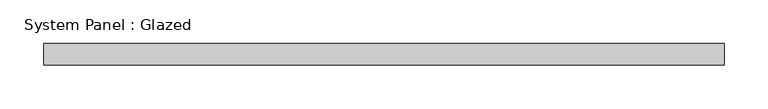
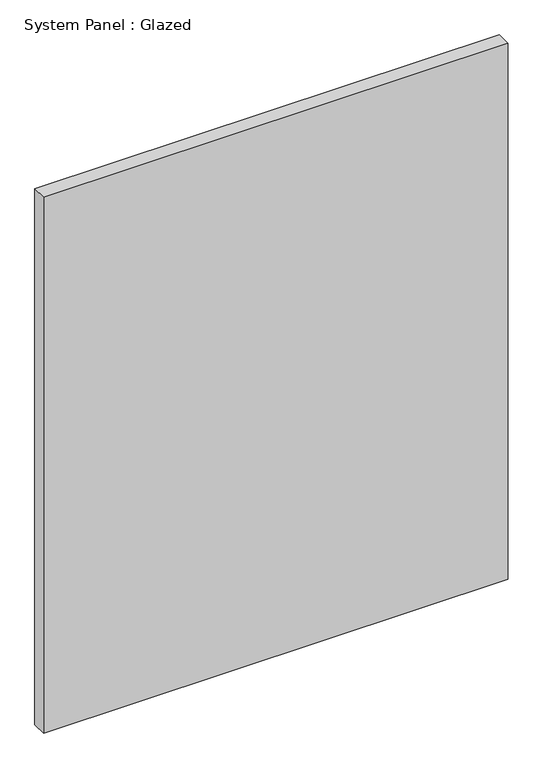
"""IFC4 building model written with IfcOpenShell, lengths in millimetres: plate geometry, System Panel : Glazed."""

from ifc_helpers import new_model, si_unit, origin, origin_with_axes, place, context, project, spatial, polyline, outline, extrude, source, transform, mapped, element, save


def system_panel_glazed_d38c71d5(model_context):
    return source(origin(), model_context, "Body", "SweptSolid", [
        extrude(outline(polyline([(390.0, 24.5), (-390.0, 24.5), (-390.0, 49.5), (390.0, 49.5), (390.0, 24.5)])), origin_with_axes(), (0.0, 0.0, 1.0), 950.0),
    ])


if __name__ == "__main__":
    model = new_model("IFC4")
    model_context = context("Model", 3, world=origin())
    ifc_project = project(units=[si_unit("LENGTHUNIT", "METRE", prefix="MILLI")], contexts=[model_context])
    site = spatial("IfcSite", under=ifc_project)
    building = spatial("IfcBuilding", under=site)
    placement = place(None, origin())
    system_panel_glazed_shape = system_panel_glazed_d38c71d5(model_context)
    element("IfcPlate", 1, ObjectType="System Panel : Glazed", at=placement, inside=building, context=model_context, shape_type="MappedRepresentation", body=[
        mapped(system_panel_glazed_shape, transform((0.0, 0.0, 0.0), x_axis=(1.0, 0.0, 0.0), y_axis=(0.0, 1.0, 0.0), z_axis=(0.0, 0.0, 1.0))),
    ])
    save(model, "model.ifc")
